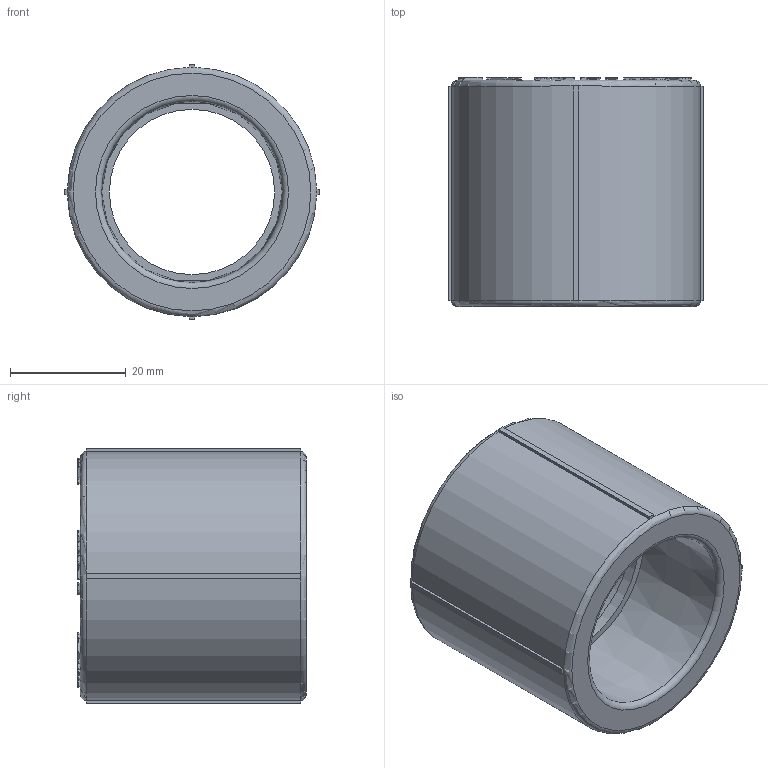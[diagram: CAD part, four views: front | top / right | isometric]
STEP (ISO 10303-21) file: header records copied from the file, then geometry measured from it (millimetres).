
FILE_DESCRIPTION(('STEP AP203'), '1');
FILE_NAME('ÂÐ.713151.003 - VTp.703.0.032', '', ('UNSPECIFIED'), ('UNSPECIFIED'), 'C3D Converter', 'C3D Toolkit', '');
FILE_SCHEMA(('CONFIG_CONTROL_DESIGN'));
Length unit declared in the file: millimetre
Products named in the file (1): ВР.713151.003
Bounding box: 44 x 39.5 x 44 mm (x, y, z)
Volume: 27068.7 mm3; surface area: 10772 mm2
Topology: 1 solids, 1 shells, 572 faces, 1598 edges, 1059 vertices
Faces by surface type: extrusion 330, plane 231, cylinder 5, torus 4, cone 2
Full cylindrical faces by diameter (mm): 28.5 x1
Entity records: 18647 total; most frequent: CARTESIAN_POINT 5203, ORIENTED_EDGE 3182, DIRECTION 1775, EDGE_CURVE 1591, VECTOR 1233, VERTEX_POINT 1059, B_SPLINE_CURVE_WITH_KNOTS 990, LINE 903
